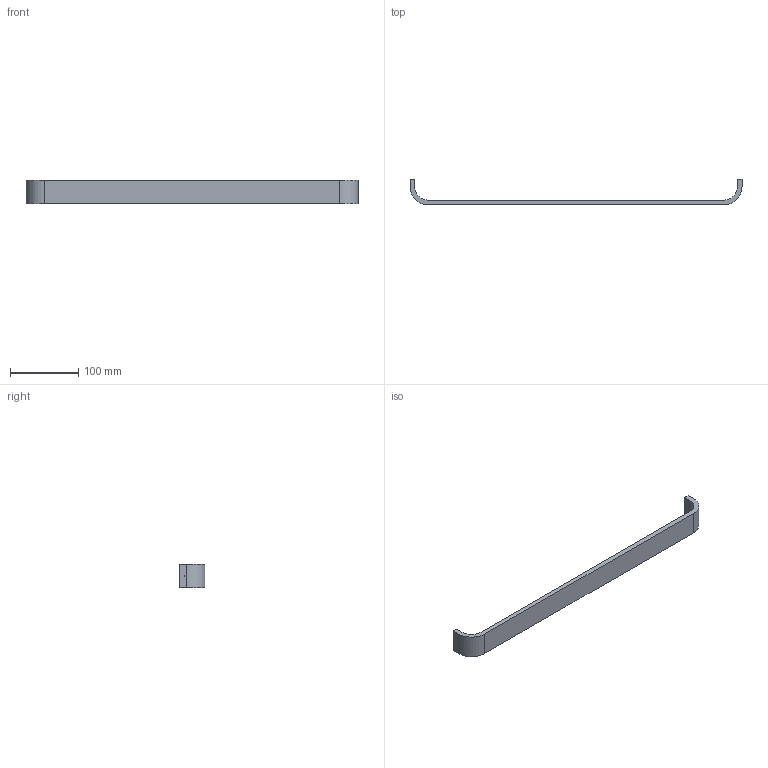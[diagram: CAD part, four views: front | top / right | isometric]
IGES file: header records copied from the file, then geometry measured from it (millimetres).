
Start section: Data from Parasolid IGES Translator 15.0.47, Copyright(c) 2006 Siemens P LM Software. All Rights Reserved.
Global section: file name: 115082.igs; native system:  By UGS Corp.; preprocessor: XPlus GENERIC/IGES 3.0; author: Noname; organization: Noname; date: 20140122.160258; units: millimetre
Bounding box: 487 x 38 x 35 mm (x, y, z)
Surface area: 45112.6 mm2 (no closed solid volume)
Topology: 0 solids, 0 shells, 18 faces, 84 edges, 82 vertices
Faces by surface type: extrusion 12, revolution 6
